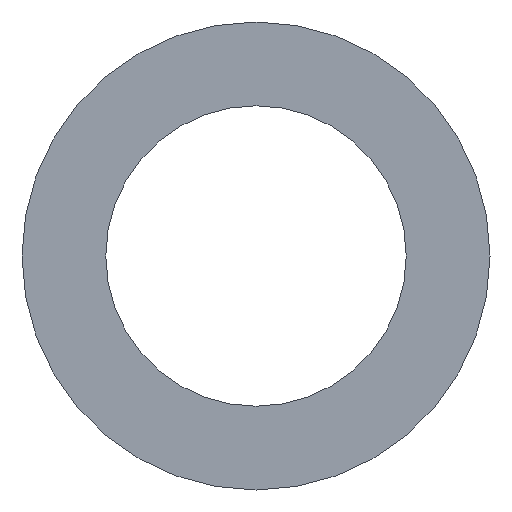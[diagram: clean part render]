
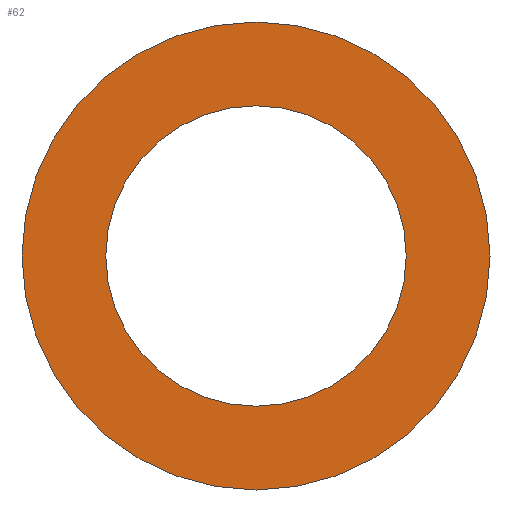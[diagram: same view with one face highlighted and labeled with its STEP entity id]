
A CAD part, front view. The second image highlights one B-rep face of the part: STEP entity #62.
In plain terms, the highlighted planar face has unit normal (0, -1, 0).
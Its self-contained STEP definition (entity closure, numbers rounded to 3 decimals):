
#20=PLANE('',#83);
#26=ORIENTED_EDGE('',*,*,#30,.T.);
#27=ORIENTED_EDGE('',*,*,#32,.F.);
#30=EDGE_CURVE('',#34,#34,#38,.T.);
#32=EDGE_CURVE('',#36,#36,#40,.T.);
#34=VERTEX_POINT('',#106);
#36=VERTEX_POINT('',#111);
#38=CIRCLE('',#78,52.);
#40=CIRCLE('',#81,81.);
#46=EDGE_LOOP('',(#26));
#47=EDGE_LOOP('',(#27));
#54=FACE_BOUND('',#46,.T.);
#55=FACE_BOUND('',#47,.T.);
#62=ADVANCED_FACE('',(#54,#55),#20,.F.);
#78=AXIS2_PLACEMENT_3D('',#105,#89,#90);
#81=AXIS2_PLACEMENT_3D('',#110,#95,#96);
#83=AXIS2_PLACEMENT_3D('',#114,#99,#100);
#89=DIRECTION('',(0.,1.,0.));
#90=DIRECTION('',(1.,0.,0.));
#95=DIRECTION('',(0.,1.,0.));
#96=DIRECTION('',(1.,0.,0.));
#99=DIRECTION('',(0.,1.,0.));
#100=DIRECTION('',(0.,0.,1.));
#105=CARTESIAN_POINT('',(0.,-1.5,0.));
#106=CARTESIAN_POINT('',(52.,-1.5,0.));
#110=CARTESIAN_POINT('',(0.,-1.5,0.));
#111=CARTESIAN_POINT('',(81.,-1.5,0.));
#114=CARTESIAN_POINT('',(0.,-1.5,0.));
